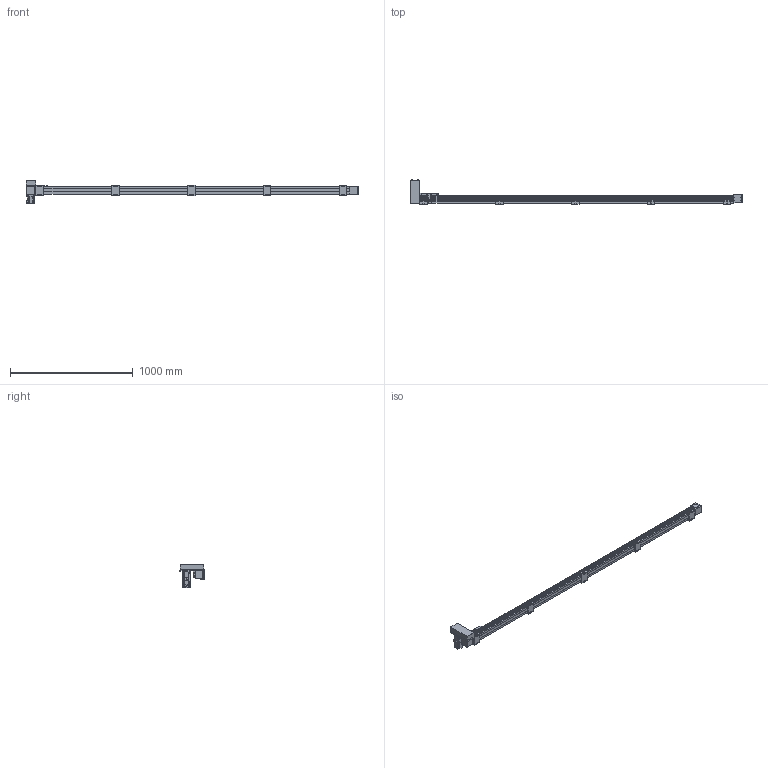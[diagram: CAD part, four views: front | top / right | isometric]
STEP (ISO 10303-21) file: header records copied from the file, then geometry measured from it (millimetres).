
FILE_DESCRIPTION(/* description */ ('STEP AP214'),/* implementation_level */ '2;1');
FILE_NAME(/* name */ 'SK60-P13-S2400-RU-T40-C1-N(0)',/* time_stamp */ '2023-04-06T05:05:33+02:00',/* author */ ('License CC BY-ND 4.0'),/* organization */ ('CADENAS'),/* preprocessor_version */ 'ST-DEVELOPER v19.3',/* originating_system */ 'PARTsolutions',/* authorisation */ ' ');
FILE_SCHEMA (('AUTOMOTIVE_DESIGN {1 0 10303 214 3 1 1}'));
Length unit declared in the file: millimetre
Products named in the file (10): SK60-P13-S2400-RU-T40-C1-N(0); PSC140-sensor; SK60-S450_seat; SK60-S450-BL-C1_slider; SK60_body3; SK60_body6; SK60-BL_body2; T40-p1; SK60-RU_fb; SK60-S2400-RU-C1_body
Assembly tree (19 placements, depth 2):
  SK60-P13-S2400-RU-T40-C1-N(0)
    PSC140-sensor  x3
    SK60-S450_seat  x5
    SK60-S450-BL-C1_slider
    SK60_body3  x3
    SK60_body6  x2
    SK60-BL_body2  x2
    T40-p1
    SK60-RU_fb
    SK60-S2400-RU-C1_body
Bounding box: 2705.5 x 201 x 189.7 mm (x, y, z)
Volume: 10366280.2 mm3; surface area: 1222768.3 mm2
Topology: 19 solids, 19 shells, 942 faces, 2342 edges, 1541 vertices
Faces by surface type: plane 596, cylinder 310, cone 34, torus 2
Full cylindrical faces by diameter (mm): 2.8 x3, 3.3 x4, 4 x2, 4.5 x30, 4.6 x3, 4.917 x28, 5 x6, 5.478 x4, 5.5 x31, 6.5 x10, 7 x2, 8 x4, 8.5 x4, 9.988 x4, 10 x20, 14 x1, 47 x3, 50 x2
Entity records: 18679 total; most frequent: DIRECTION 3190, CARTESIAN_POINT 3153, ORIENTED_EDGE 2940, EDGE_CURVE 1470, AXIS2_PLACEMENT_3D 1071, LINE 1048, VECTOR 1048, VERTEX_POINT 1034
